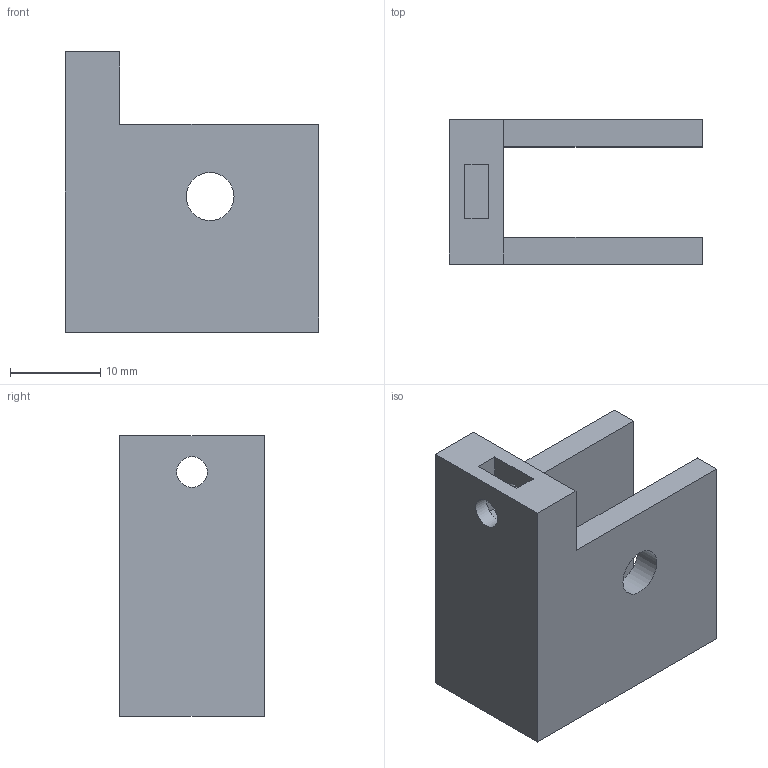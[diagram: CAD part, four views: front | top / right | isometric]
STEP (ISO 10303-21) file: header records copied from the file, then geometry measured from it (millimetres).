
FILE_DESCRIPTION(('Open CASCADE Model'),'2;1');
FILE_NAME('Open CASCADE Shape Model','2026-10-23T08:22:11',('Author'),( 'Open CASCADE'),'Open CASCADE STEP processor 7.9','Open CASCADE 7.9' ,'Unknown');
FILE_SCHEMA(('AUTOMOTIVE_DESIGN { 1 0 10303 214 1 1 1 1 }'));
Length unit declared in the file: millimetre
Products named in the file (1): Open CASCADE STEP translator 7.9 5
Bounding box: 28 x 16 x 31 mm (x, y, z)
Volume: 5739.6 mm3; surface area: 3976.1 mm2
Topology: 1 solids, 1 shells, 21 faces, 54 edges, 36 vertices
Faces by surface type: plane 17, cylinder 4
Full cylindrical faces by diameter (mm): 3.4 x2, 5.3 x2
Entity records: 1364 total; most frequent: CARTESIAN_POINT 220, DIRECTION 214, LINE 146, VECTOR 146, ORIENTED_EDGE 108, PCURVE 108, DEFINITIONAL_REPRESENTATION 108, EDGE_CURVE 54
